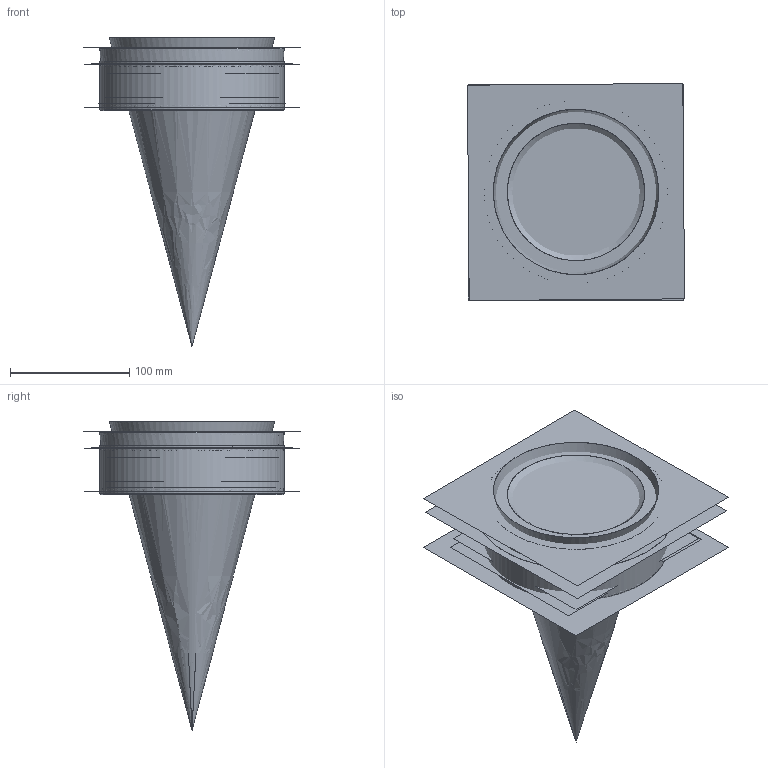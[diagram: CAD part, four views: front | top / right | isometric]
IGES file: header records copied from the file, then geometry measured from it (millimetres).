
Global section: file name: C:\Users\utente\Desktop\DANESE RG\3D Danese\ASHTRAYS\BARBADOS\BARBADOS S.igs; native system: Rhinoceros ( Mar  9 2011 ); preprocessor: Trout Lake IGES 012 Mar  9 2011; date: 170515.154403; units: millimetre
Bounding box: 182.32 x 182.32 x 259.05 mm (x, y, z)
Surface area: 819261.7 mm2 (no closed solid volume)
Topology: 0 solids, 0 shells, 111 faces, 301 edges, 213 vertices
Faces by surface type: bspline 111
